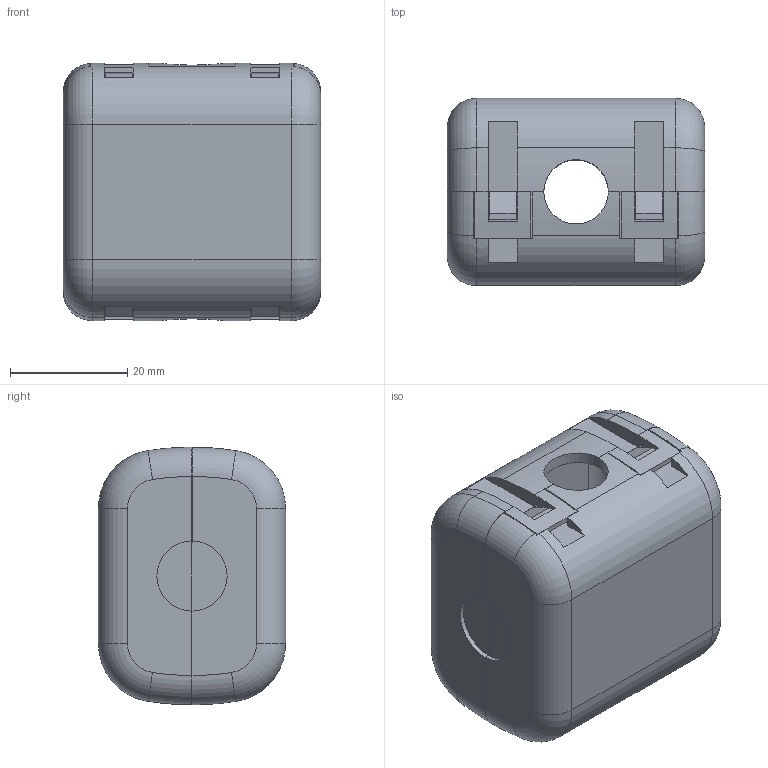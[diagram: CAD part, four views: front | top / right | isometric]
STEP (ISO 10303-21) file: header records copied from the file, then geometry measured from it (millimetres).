
FILE_DESCRIPTION (( 'STEP AP203' ), '1' );
FILE_NAME ('扻豵鵨 733_捘.STEP', '2018-09-04T06:38:47', ( '' ), ( '' ), 'SwSTEP 2.0', 'SolidWorks 2017', '' );
FILE_SCHEMA (( 'CONFIG_CONTROL_DESIGN' ));
Length unit declared in the file: millimetre
Products named in the file (2): 扻豵鵨 733 (瀁鋋睯縺); 扻豵鵨 733_捘
Assembly tree (2 placements, depth 2):
  扻豵鵨 733_捘
    扻豵鵨 733 (瀁鋋睯縺)  x2
Bounding box: 44 x 32 x 44 mm (x, y, z)
Volume: 15638.7 mm3; surface area: 16600.7 mm2
Topology: 2 solids, 2 shells, 264 faces, 752 edges, 484 vertices
Faces by surface type: plane 178, cylinder 46, torus 32, bspline 8
Entity records: 4930 total; most frequent: CARTESIAN_POINT 1239, ORIENTED_EDGE 752, DIRECTION 722, EDGE_CURVE 376, LINE 244, VECTOR 244, VERTEX_POINT 242, AXIS2_PLACEMENT_3D 239
